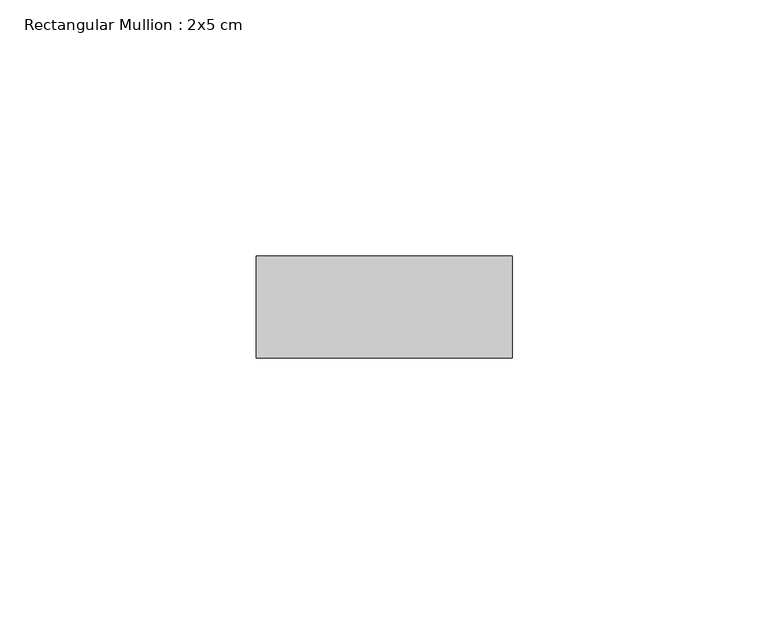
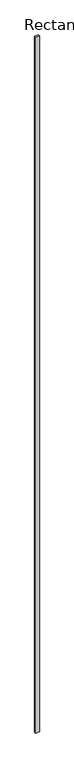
"""IFC4 building model written with IfcOpenShell, lengths in millimetres: member geometry, Rectangular Mullion : 2x5 cm."""

from ifc_helpers import new_model, si_unit, frame, origin, place, context, project, spatial, polyline, outline, extrude, source, transform, mapped, element, save


def rectangular_mullion_2x5_cm_e7ad339a(model_context):
    return source(origin(), model_context, "Body", "SweptSolid", [
        extrude(outline(polyline([(50.0, 20.0), (50.0, 0.0), (0.0, 0.0), (0.0, 20.0), (50.0, 20.0)])), frame((0.0, 0.0, -9827.6928701), z_axis=(0.0, 0.0, 1.0), x_axis=(1.0, 0.0, 0.0)), (0.0, 0.0, 1.0), 9827.6928701),
    ])


if __name__ == "__main__":
    model = new_model("IFC4")
    model_context = context("Model", 3, world=origin())
    ifc_project = project(units=[si_unit("LENGTHUNIT", "METRE", prefix="MILLI")], contexts=[model_context])
    site = spatial("IfcSite", under=ifc_project)
    building = spatial("IfcBuilding", under=site)
    placement = place(None, origin())
    rectangular_mullion_2x5_cm_shape = rectangular_mullion_2x5_cm_e7ad339a(model_context)
    element("IfcMember", 1, ObjectType="Rectangular Mullion : 2x5 cm", at=placement, inside=building, context=model_context, shape_type="MappedRepresentation", body=[
        mapped(rectangular_mullion_2x5_cm_shape, transform((0.0, 0.0, 0.0), x_axis=(1.0, 0.0, 0.0), y_axis=(0.0, 1.0, 0.0), z_axis=(0.0, 0.0, 1.0))),
    ])
    save(model, "model.ifc")
